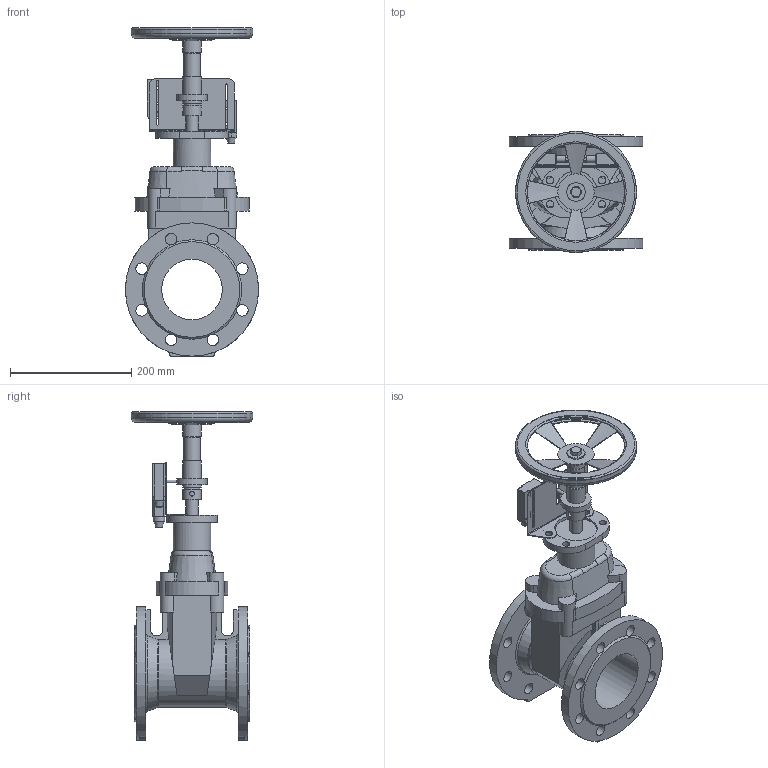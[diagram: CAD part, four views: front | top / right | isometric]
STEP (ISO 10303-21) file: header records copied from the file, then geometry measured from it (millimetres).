
FILE_DESCRIPTION(('STEP AP203'), '1');
FILE_NAME('Çàäâèæêà 47GV.M DN100 ñ ìàõîâèêîì è ÓÊÏ', '', ('UNSPECIFIED'), ('UNSPECIFIED'), 'ASCON STEP Converter 1.6', 'ASCON Math Kernel', '');
FILE_SCHEMA(('CONFIG_CONTROL_DESIGN'));
Length unit declared in the file: millimetre
Bounding box: 220 x 200 x 542 mm (x, y, z)
Volume: 3907634 mm3; surface area: 510006.6 mm2
Topology: 4 solids, 4 shells, 434 faces, 1128 edges, 703 vertices
Faces by surface type: plane 226, cylinder 154, cone 28, torus 20, sphere 4, bspline 2
Full cylindrical faces by diameter (mm): 4 x4, 4.917 x1, 6 x1, 8 x2, 12 x8, 13 x2, 14 x2, 19 x16, 20 x1, 27.8 x1, 28 x1, 30 x4, 31 x1, 50 x1, 62 x1, 70 x1, 100 x1, 163 x1, 197 x1, 200 x1, 220 x2
Entity records: 19629 total; most frequent: CARTESIAN_POINT 5467, DIRECTION 2314, ORIENTED_EDGE 2098, EDGE_CURVE 1049, AXIS2_PLACEMENT_3D 906, VERTEX_POINT 703, EDGE_LOOP 578, LINE 502
